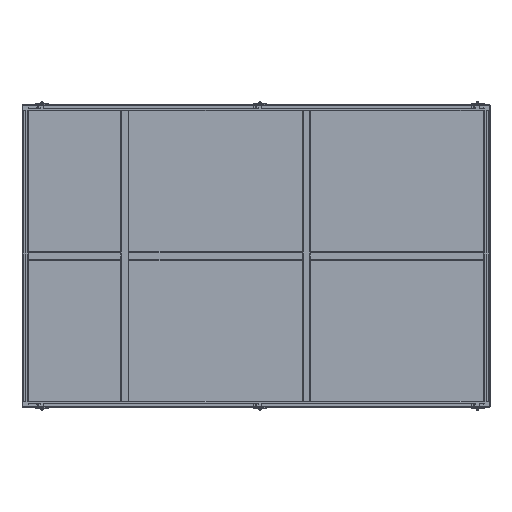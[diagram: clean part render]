
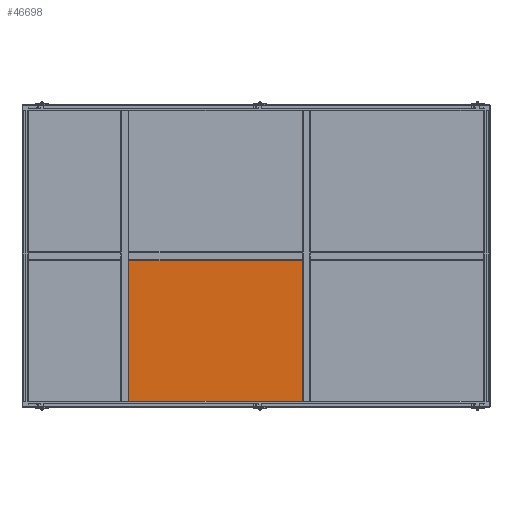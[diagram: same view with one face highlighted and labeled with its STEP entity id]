
A CAD part, top view. The second image highlights one B-rep face of the part: STEP entity #46698.
In plain terms, the highlighted planar face has unit normal (0, 0, 1).
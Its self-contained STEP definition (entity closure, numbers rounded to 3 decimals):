
#3902=FACE_OUTER_BOUND('',#6623,.T.);
#6623=EDGE_LOOP('',(#30901,#30902,#30903,#30904));
#9771=LINE('',#67640,#14499);
#9775=LINE('',#67648,#14503);
#9778=LINE('',#67654,#14506);
#9781=LINE('',#67659,#14509);
#14499=VECTOR('',#53936,10.);
#14503=VECTOR('',#53942,10.);
#14506=VECTOR('',#53947,10.);
#14509=VECTOR('',#53952,10.);
#19227=VERTEX_POINT('',#67638);
#19228=VERTEX_POINT('',#67639);
#19231=VERTEX_POINT('',#67647);
#19233=VERTEX_POINT('',#67653);
#23801=EDGE_CURVE('',#19227,#19228,#9771,.T.);
#23805=EDGE_CURVE('',#19228,#19231,#9775,.T.);
#23808=EDGE_CURVE('',#19231,#19233,#9778,.T.);
#23811=EDGE_CURVE('',#19233,#19227,#9781,.T.);
#30901=ORIENTED_EDGE('',*,*,#23801,.F.);
#30902=ORIENTED_EDGE('',*,*,#23811,.F.);
#30903=ORIENTED_EDGE('',*,*,#23808,.F.);
#30904=ORIENTED_EDGE('',*,*,#23805,.F.);
#45057=PLANE('',#49449);
#46698=ADVANCED_FACE('',(#3902),#45057,.T.);
#49449=AXIS2_PLACEMENT_3D('',#67661,#53954,#53955);
#53936=DIRECTION('',(0.,1.,0.));
#53942=DIRECTION('',(1.,0.,0.));
#53947=DIRECTION('',(0.,-1.,0.));
#53952=DIRECTION('',(-1.,0.,0.));
#53954=DIRECTION('center_axis',(0.,0.,
1.));
#53955=DIRECTION('ref_axis',(1.,0.,0.));
#67638=CARTESIAN_POINT('',(-725.964,-421.685,17.279));
#67639=CARTESIAN_POINT('',(-725.964,293.315,17.279));
#67640=CARTESIAN_POINT('',(-725.964,-421.685,17.279));
#67647=CARTESIAN_POINT('',(149.036,293.315,17.279));
#67648=CARTESIAN_POINT('',(-725.964,293.315,17.279));
#67653=CARTESIAN_POINT('',(149.036,-421.685,17.279));
#67654=CARTESIAN_POINT('',(149.036,293.315,17.279));
#67659=CARTESIAN_POINT('',(149.036,-421.685,17.279));
#67661=CARTESIAN_POINT('Origin',(-288.464,-64.185,17.279));
